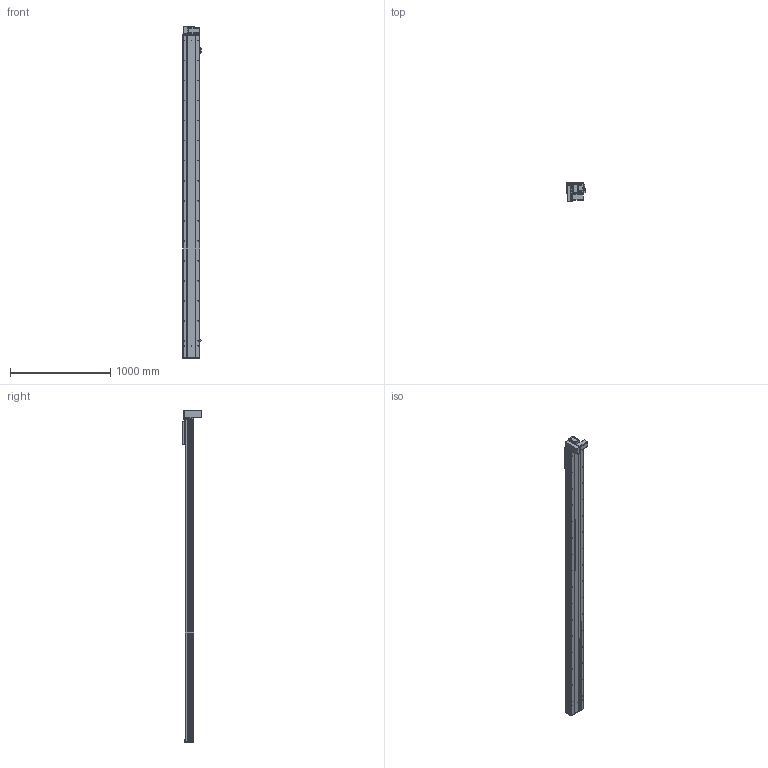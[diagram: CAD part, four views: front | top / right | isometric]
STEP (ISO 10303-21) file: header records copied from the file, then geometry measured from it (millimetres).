
FILE_DESCRIPTION (( 'STEP AP203' ), '1' );
FILE_NAME ('Y170CB-D105-S2900-BM-P400W.STEP', '2020-02-20T07:52:28', ( '微软用户' ), ( '微软中国' ), 'SwSTEP 2.0', 'SolidWorks 2017', '' );
FILE_SCHEMA (( 'CONFIG_CONTROL_DESIGN' ));
Length unit declared in the file: millimetre
Products named in the file (18): --70CB --喘謫眊楊擘啣-; 17B-耜蚾蟀諉啣----; 70C--詩湍揤踡え-; 70CB-耜裔啣-; 00B-俋欶BM--163; 70CB--耜裔; 70B喘謫眊----; 70C-雄赽釱-奻-; Y170CB-D105-S2900-BM-P400W; 0C--雄赽釱俋欶-170; B-源倛裔啣; 70CB-詩湍--; 0B-萇儂楊擘啣; Y100-135俋离換覜ん--; san松下电机400不带刹车----; Y170CB-陔俋离換覜結え---; 70CB-掛极-; Y1埴倛裔
Assembly tree (21 placements, depth 2):
  Y170CB-D105-S2900-BM-P400W
    B-源倛裔啣
    0B-萇儂楊擘啣
    san松下电机400不带刹车----
    70CB-掛极-
    --70CB --喘謫眊楊擘啣-
    70CB-耜裔啣-  x2
    70C--詩湍揤踡え-  x2
    70CB--耜裔
    70C-雄赽釱-奻-
    0C--雄赽釱俋欶-170
    70CB-詩湍--
    Y100-135俋离換覜ん--  x3
    Y170CB-陔俋离換覜結え---
    Y1埴倛裔
    17B-耜蚾蟀諉啣----
    00B-俋欶BM--163
    70B喘謫眊----
Bounding box: 183.5 x 184 x 3316 mm (x, y, z)
Volume: 14019856.7 mm3; surface area: 5067885.8 mm2
Topology: 21 solids, 21 shells, 1087 faces, 2933 edges, 1946 vertices
Faces by surface type: cylinder 601, plane 462, cone 24
Entity records: 34956 total; most frequent: CARTESIAN_POINT 6456, DIRECTION 5690, ORIENTED_EDGE 5348, EDGE_CURVE 2674, AXIS2_PLACEMENT_3D 2108, VERTEX_POINT 1776, VECTOR 1474, LINE 1474
